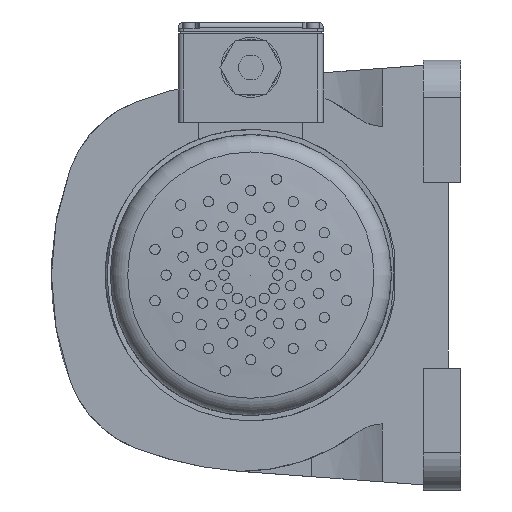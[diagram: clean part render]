
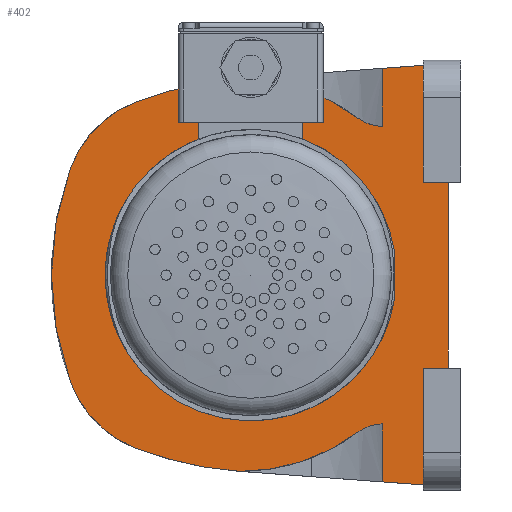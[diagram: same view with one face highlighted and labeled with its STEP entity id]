
A CAD part, left-side view. The second image highlights one B-rep face of the part: STEP entity #402.
In plain terms, the highlighted planar face has unit normal (-1, 0, 0).
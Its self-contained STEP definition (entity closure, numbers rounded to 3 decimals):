
#402 = ADVANCED_FACE( '', ( #1182 ), #1183, .F. );
#1182 = FACE_OUTER_BOUND( '', #2747, .T. );
#1183 = PLANE( '', #2748 );
#2747 = EDGE_LOOP( '', ( #4864, #4865, #4866, #4867, #4868, #4869, #4870, #4871, #4872, #4873, #4874, #4875, #4876, #4877, #4878, #4879, #4880, #4881 ) );
#2748 = AXIS2_PLACEMENT_3D( '', #4882, #4883, #4884 );
#4864 = ORIENTED_EDGE( '', *, *, #9452, .F. );
#4865 = ORIENTED_EDGE( '', *, *, #9369, .T. );
#4866 = ORIENTED_EDGE( '', *, *, #9358, .T. );
#4867 = ORIENTED_EDGE( '', *, *, #9217, .T. );
#4868 = ORIENTED_EDGE( '', *, *, #9453, .F. );
#4869 = ORIENTED_EDGE( '', *, *, #9189, .T. );
#4870 = ORIENTED_EDGE( '', *, *, #9195, .F. );
#4871 = ORIENTED_EDGE( '', *, *, #9208, .F. );
#4872 = ORIENTED_EDGE( '', *, *, #9454, .F. );
#4873 = ORIENTED_EDGE( '', *, *, #9204, .F. );
#4874 = ORIENTED_EDGE( '', *, *, #9201, .F. );
#4875 = ORIENTED_EDGE( '', *, *, #9198, .F. );
#4876 = ORIENTED_EDGE( '', *, *, #9181, .F. );
#4877 = ORIENTED_EDGE( '', *, *, #9455, .T. );
#4878 = ORIENTED_EDGE( '', *, *, #9456, .F. );
#4879 = ORIENTED_EDGE( '', *, *, #9219, .T. );
#4880 = ORIENTED_EDGE( '', *, *, #9395, .T. );
#4881 = ORIENTED_EDGE( '', *, *, #9401, .T. );
#4882 = CARTESIAN_POINT( '', ( -110., 68., 102.415 ) );
#4883 = DIRECTION( '', ( 1., 0., 0. ) );
#4884 = DIRECTION( '', ( 0., 0., -1. ) );
#9181 = EDGE_CURVE( '', #10685, #10687, #10688, .T. );
#9189 = EDGE_CURVE( '', #10702, #10703, #10704, .T. );
#9195 = EDGE_CURVE( '', #10711, #10703, #10713, .T. );
#9198 = EDGE_CURVE( '', #10687, #10718, #10719, .T. );
#9201 = EDGE_CURVE( '', #10718, #10723, #10724, .T. );
#9204 = EDGE_CURVE( '', #10723, #10728, #10729, .T. );
#9208 = EDGE_CURVE( '', #10734, #10711, #10736, .T. );
#9217 = EDGE_CURVE( '', #10741, #10750, #10752, .T. );
#9219 = EDGE_CURVE( '', #10756, #10753, #10757, .T. );
#9358 = EDGE_CURVE( '', #11002, #10741, #11003, .T. );
#9369 = EDGE_CURVE( '', #11021, #11002, #11022, .T. );
#9395 = EDGE_CURVE( '', #10753, #11066, #11068, .T. );
#9401 = EDGE_CURVE( '', #11066, #11074, #11075, .T. );
#9452 = EDGE_CURVE( '', #11021, #11074, #11156, .T. );
#9453 = EDGE_CURVE( '', #10702, #10750, #11157, .F. );
#9454 = EDGE_CURVE( '', #10728, #10734, #11158, .T. );
#9455 = EDGE_CURVE( '', #10685, #11159, #11160, .T. );
#9456 = EDGE_CURVE( '', #10756, #11159, #11161, .F. );
#10685 = VERTEX_POINT( '', #13245 );
#10687 = VERTEX_POINT( '', #13248 );
#10688 = CIRCLE( '', #13249, 95. );
#10702 = VERTEX_POINT( '', #13280 );
#10703 = VERTEX_POINT( '', #13281 );
#10704 = CIRCLE( '', #13282, 20. );
#10711 = VERTEX_POINT( '', #13306 );
#10713 = CIRCLE( '', #13309, 95. );
#10718 = VERTEX_POINT( '', #13318 );
#10719 = CIRCLE( '', #13319, 175. );
#10723 = VERTEX_POINT( '', #13331 );
#10724 = CIRCLE( '', #13332, 55. );
#10728 = VERTEX_POINT( '', #13358 );
#10729 = CIRCLE( '', #13359, 150. );
#10734 = VERTEX_POINT( '', #13388 );
#10736 = CIRCLE( '', #13391, 175. );
#10741 = VERTEX_POINT( '', #13404 );
#10750 = VERTEX_POINT( '', #13416 );
#10752 = LINE( '', #13418, #13419 );
#10753 = VERTEX_POINT( '', #13420 );
#10756 = VERTEX_POINT( '', #13424 );
#10757 = LINE( '', #13425, #13426 );
#11002 = VERTEX_POINT( '', #13814 );
#11003 = LINE( '', #13815, #13816 );
#11021 = VERTEX_POINT( '', #13842 );
#11022 = LINE( '', #13843, #13844 );
#11066 = VERTEX_POINT( '', #13904 );
#11068 = LINE( '', #13907, #13908 );
#11074 = VERTEX_POINT( '', #13919 );
#11075 = LINE( '', #13920, #13921 );
#11156 = LINE( '', #14376, #14377 );
#11157 = LINE( '', #14378, #14379 );
#11158 = CIRCLE( '', #14380, 55. );
#11159 = VERTEX_POINT( '', #14381 );
#11160 = CIRCLE( '', #14382, 20. );
#11161 = LINE( '', #14383, #14384 );
#13245 = CARTESIAN_POINT( '', ( -110., -80.3, -76. ) );
#13248 = CARTESIAN_POINT( '', ( -110., -23.382, -95. ) );
#13249 = AXIS2_PLACEMENT_3D( '', #21967, #21968, #21969 );
#13280 = CARTESIAN_POINT( '', ( -110., -92.057, 72.001 ) );
#13281 = CARTESIAN_POINT( '', ( -110., -80.3, 76. ) );
#13282 = AXIS2_PLACEMENT_3D( '', #21978, #21979, #21980 );
#13306 = CARTESIAN_POINT( '', ( -110., -23.382, 95. ) );
#13309 = AXIS2_PLACEMENT_3D( '', #21986, #21987, #21988 );
#13318 = CARTESIAN_POINT( '', ( -110., 27.481, -83.694 ) );
#13319 = AXIS2_PLACEMENT_3D( '', #21990, #21991, #21992 );
#13331 = CARTESIAN_POINT( '', ( -110., 59.004, -51.165 ) );
#13332 = AXIS2_PLACEMENT_3D( '', #21994, #21995, #21996 );
#13358 = CARTESIAN_POINT( '', ( -110., 59.004, 51.165 ) );
#13359 = AXIS2_PLACEMENT_3D( '', #21998, #21999, #22000 );
#13388 = CARTESIAN_POINT( '', ( -110., 27.481, 83.694 ) );
#13391 = AXIS2_PLACEMENT_3D( '', #22003, #22004, #22005 );
#13404 = CARTESIAN_POINT( '', ( -110., -112., 101.531 ) );
#13416 = CARTESIAN_POINT( '', ( -110., -92.057, 100.061 ) );
#13418 = CARTESIAN_POINT( '', ( -110., -124., 102.415 ) );
#13419 = VECTOR( '', #22019, 1000. );
#13420 = CARTESIAN_POINT( '', ( -110., -112., -101.531 ) );
#13424 = CARTESIAN_POINT( '', ( -110., -92.057, -100.061 ) );
#13425 = CARTESIAN_POINT( '', ( -110., -22.641, -94.947 ) );
#13426 = VECTOR( '', #22021, 1000. );
#13814 = CARTESIAN_POINT( '', ( -110., -112., 45. ) );
#13815 = CARTESIAN_POINT( '', ( -110., -112., 102.415 ) );
#13816 = VECTOR( '', #22224, 1000. );
#13842 = CARTESIAN_POINT( '', ( -110., -124., 45. ) );
#13843 = CARTESIAN_POINT( '', ( -110., 68., 45. ) );
#13844 = VECTOR( '', #22239, 1000. );
#13904 = CARTESIAN_POINT( '', ( -110., -112., -45. ) );
#13907 = CARTESIAN_POINT( '', ( -110., -112., 102.415 ) );
#13908 = VECTOR( '', #22281, 1000. );
#13919 = CARTESIAN_POINT( '', ( -110., -124., -45. ) );
#13920 = CARTESIAN_POINT( '', ( -110., 68., -45. ) );
#13921 = VECTOR( '', #22287, 1000. );
#14376 = CARTESIAN_POINT( '', ( -110., -124., 102.415 ) );
#14377 = VECTOR( '', #22354, 1000. );
#14378 = CARTESIAN_POINT( '', ( -110., -92.057, 102.415 ) );
#14379 = VECTOR( '', #22355, 1000. );
#14380 = AXIS2_PLACEMENT_3D( '', #22356, #22357, #22358 );
#14381 = CARTESIAN_POINT( '', ( -110., -92.057, -72.001 ) );
#14382 = AXIS2_PLACEMENT_3D( '', #22359, #22360, #22361 );
#14383 = CARTESIAN_POINT( '', ( -110., -92.057, 102.415 ) );
#14384 = VECTOR( '', #22362, 1000. );
#21967 = CARTESIAN_POINT( '', ( -110., -23.3, 0. ) );
#21968 = DIRECTION( '', ( 1., 0., 0. ) );
#21969 = DIRECTION( '', ( 0., 0., -1. ) );
#21978 = CARTESIAN_POINT( '', ( -110., -92.3, 92. ) );
#21979 = DIRECTION( '', ( 1., 0., 0. ) );
#21980 = DIRECTION( '', ( 0., 0., -1. ) );
#21986 = CARTESIAN_POINT( '', ( -110., -23.3, 0. ) );
#21987 = DIRECTION( '', ( 1., 0., 0. ) );
#21988 = DIRECTION( '', ( 0., 0., -1. ) );
#21990 = CARTESIAN_POINT( '', ( -110., -35.5, 79.58 ) );
#21991 = DIRECTION( '', ( 1., 0., 0. ) );
#21992 = DIRECTION( '', ( 0., 0., -1. ) );
#21994 = CARTESIAN_POINT( '', ( -110., 7.25, -32.55 ) );
#21995 = DIRECTION( '', ( 1., 0., 0. ) );
#21996 = DIRECTION( '', ( 0., 0., -1. ) );
#21998 = CARTESIAN_POINT( '', ( -110., -82., 0. ) );
#21999 = DIRECTION( '', ( 1., 0., 0. ) );
#22000 = DIRECTION( '', ( 0., 0., -1. ) );
#22003 = CARTESIAN_POINT( '', ( -110., -35.5, -79.58 ) );
#22004 = DIRECTION( '', ( 1., 0., 0. ) );
#22005 = DIRECTION( '', ( 0., 0., -1. ) );
#22019 = DIRECTION( '', ( 0., 0.997, -0.073 ) );
#22021 = DIRECTION( '', ( 0., -0.997, -0.073 ) );
#22224 = DIRECTION( '', ( 0., 0., 1. ) );
#22239 = DIRECTION( '', ( 0., 1., 0. ) );
#22281 = DIRECTION( '', ( 0., 0., 1. ) );
#22287 = DIRECTION( '', ( 0., -1., 0. ) );
#22354 = DIRECTION( '', ( 0., 0., -1. ) );
#22355 = DIRECTION( '', ( 0., 0., -1. ) );
#22356 = CARTESIAN_POINT( '', ( -110., 7.25, 32.55 ) );
#22357 = DIRECTION( '', ( 1., 0., 0. ) );
#22358 = DIRECTION( '', ( 0., 0., -1. ) );
#22359 = CARTESIAN_POINT( '', ( -110., -92.3, -92. ) );
#22360 = DIRECTION( '', ( 1., 0., 0. ) );
#22361 = DIRECTION( '', ( 0., 0., -1. ) );
#22362 = DIRECTION( '', ( 0., 0., -1. ) );
